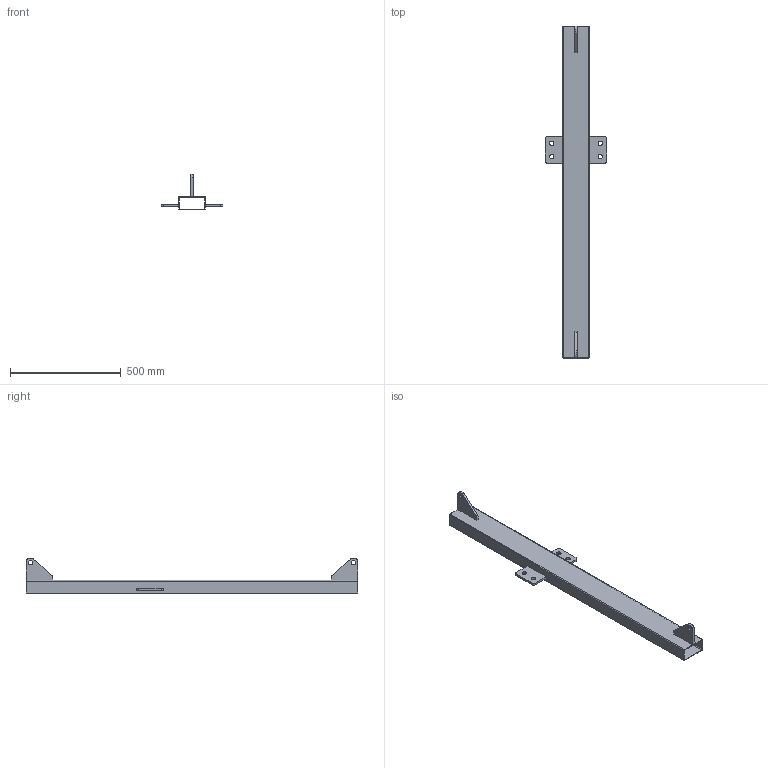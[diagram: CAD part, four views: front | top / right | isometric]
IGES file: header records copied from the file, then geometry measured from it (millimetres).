
Start section: C
Global section: file name: Beam_assembly.a.igs; native system: By Siemens PLM Incorporated; preprocessor: XPlus GENERIC/IGES 26.1.183; author: Author; organization: Title; date: 20250112.111239; units: millimetre
Bounding box: 280 x 1500 x 160 mm (x, y, z)
Surface area: 1117733.7 mm2 (no closed solid volume)
Topology: 0 solids, 0 shells, 60 faces, 324 edges, 324 vertices
Faces by surface type: bspline 60
